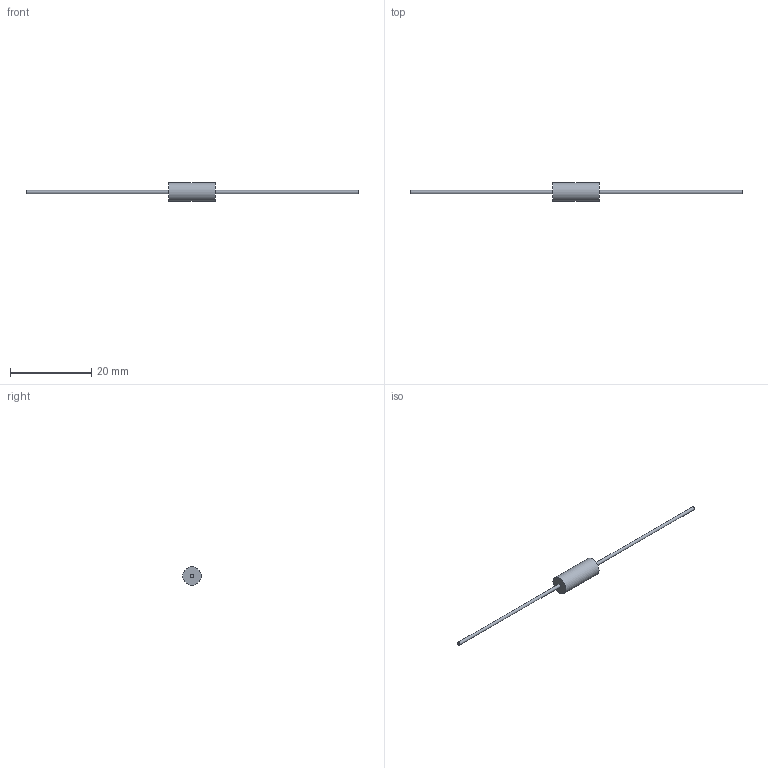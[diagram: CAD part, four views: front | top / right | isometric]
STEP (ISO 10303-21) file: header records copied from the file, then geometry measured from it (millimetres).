
FILE_DESCRIPTION(/* description */ (''),/* implementation_level */ '2;1');
FILE_NAME(/* name */ 'C:\Users\mulla\Documents\SEI Models\Inventor Files\MG_MGM\MGM2_stp.stp',/* time_stamp */ '2019-06-12T13:22:54-04:00',/* author */ ('mulla'),/* organization */ (''),/* preprocessor_version */ 'ST-DEVELOPER v16.1',/* originating_system */ 'Autodesk Inventor 2016',/* authorisation */ '');
FILE_SCHEMA (('AUTOMOTIVE_DESIGN { 1 0 10303 214 3 1 1 }'));
Length unit declared in the file: millimetre
Products named in the file (1): MGM2
Bounding box: 81.5 x 4.5 x 4.5 mm (x, y, z)
Volume: 216.3 mm3; surface area: 367.8 mm2
Topology: 3 solids, 3 shells, 9 faces, 9 edges, 6 vertices
Faces by surface type: plane 6, cylinder 3
Full cylindrical faces by diameter (mm): 0.78 x2, 4.5 x1
Entity records: 186 total; most frequent: DIRECTION 32, CARTESIAN_POINT 22, AXIS2_PLACEMENT_3D 16, EDGE_LOOP 12, ORIENTED_EDGE 12, FACE_OUTER_BOUND 9, ADVANCED_FACE 9, PLANE 6
